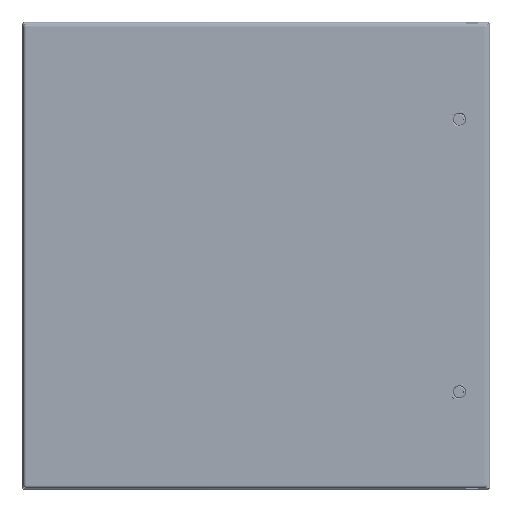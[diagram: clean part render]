
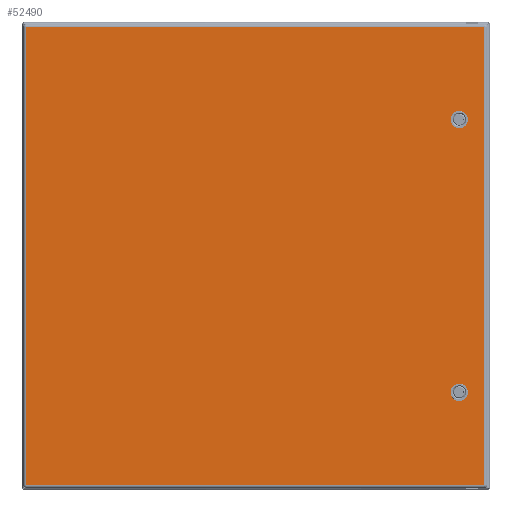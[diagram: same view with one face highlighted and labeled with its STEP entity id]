
A CAD part, top view. The second image highlights one B-rep face of the part: STEP entity #52490.
In plain terms, the highlighted planar face has unit normal (0, 0, 1).
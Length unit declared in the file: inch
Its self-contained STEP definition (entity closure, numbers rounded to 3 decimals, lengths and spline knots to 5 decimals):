
#4057 = CIRCLE ( 'NONE', #45326, 0.445 ) ;
#5554 = DIRECTION ( 'NONE',  ( 0., 0., -1. ) ) ;
#5990 = DIRECTION ( 'NONE',  ( 0., 1., 0. ) ) ;
#6037 = ORIENTED_EDGE ( 'NONE', *, *, #121815, .T. ) ;
#6473 = LINE ( 'NONE', #113439, #142789 ) ;
#9092 = CARTESIAN_POINT ( 'NONE',  ( 0.152, 0.15748, 0.072 ) ) ;
#10595 = EDGE_CURVE ( 'NONE', #169187, #169889, #113854, .T. ) ;
#11982 = ORIENTED_EDGE ( 'NONE', *, *, #10595, .T. ) ;
#15535 = VECTOR ( 'NONE', #32516, 39.37008 ) ;
#17962 = VERTEX_POINT ( 'NONE', #63818 ) ;
#19001 = AXIS2_PLACEMENT_3D ( 'NONE', #150294, #96864, #151441 ) ;
#19890 = CARTESIAN_POINT ( 'NONE',  ( 0.152, 0.152, 0.072 ) ) ;
#19936 = EDGE_CURVE ( 'NONE', #94056, #57511, #154601, .T. ) ;
#20261 = FACE_BOUND ( 'NONE', #123879, .T. ) ;
#21168 = CARTESIAN_POINT ( 'NONE',  ( 0.152, 23.66652, 0.072 ) ) ;
#21436 = CARTESIAN_POINT ( 'NONE',  ( 23.67952, 0.152, 0.072 ) ) ;
#22865 = EDGE_CURVE ( 'NONE', #42538, #150841, #171145, .T. ) ;
#23247 = AXIS2_PLACEMENT_3D ( 'NONE', #123333, #5554, #32648 ) ;
#23718 = AXIS2_PLACEMENT_3D ( 'NONE', #69371, #96552, #94857 ) ;
#24360 = ORIENTED_EDGE ( 'NONE', *, *, #61764, .T. ) ;
#24478 = DIRECTION ( 'NONE',  ( 1., 0., 0. ) ) ;
#24642 = CARTESIAN_POINT ( 'NONE',  ( 0.152, 11.912, 0.072 ) ) ;
#31383 = AXIS2_PLACEMENT_3D ( 'NONE', #130083, #128953, #24478 ) ;
#32516 = DIRECTION ( 'NONE',  ( 1., 0., 0. ) ) ;
#32623 = AXIS2_PLACEMENT_3D ( 'NONE', #61740, #165969, #75634 ) ;
#32648 = DIRECTION ( 'NONE',  ( 0., 1., 0. ) ) ;
#35083 = EDGE_CURVE ( 'NONE', #95499, #17962, #51749, .T. ) ;
#35182 = CARTESIAN_POINT ( 'NONE',  ( 23.685, 0.15748, 0.072 ) ) ;
#36725 = CARTESIAN_POINT ( 'NONE',  ( 23.67952, 0.15748, 0.072 ) ) ;
#37298 = DIRECTION ( 'NONE',  ( 0., -1., 0. ) ) ;
#38760 = CARTESIAN_POINT ( 'NONE',  ( 23.67952, 23.672, 0.072 ) ) ;
#39388 = DIRECTION ( 'NONE',  ( 0., 0., -1. ) ) ;
#40527 = CARTESIAN_POINT ( 'NONE',  ( 0., 11.912, 0.072 ) ) ;
#40943 = EDGE_CURVE ( 'NONE', #94056, #74632, #100341, .T. ) ;
#42538 = VERTEX_POINT ( 'NONE', #130984 ) ;
#45326 = AXIS2_PLACEMENT_3D ( 'NONE', #49037, #102780, #47903 ) ;
#47903 = DIRECTION ( 'NONE',  ( 1., 0., 0. ) ) ;
#48938 = AXIS2_PLACEMENT_3D ( 'NONE', #156119, #91726, #118198 ) ;
#49037 = CARTESIAN_POINT ( 'NONE',  ( 22.387, 18.912, 0.072 ) ) ;
#51749 = CIRCLE ( 'NONE', #48938, 0.445 ) ;
#52332 = CIRCLE ( 'NONE', #23247, 0.00548 ) ;
#52490 = ADVANCED_FACE ( 'NONE', ( #20261, #170902, #136025 ), #94359, .F. ) ;
#56086 = EDGE_LOOP ( 'NONE', ( #150908, #147827, #90328, #136290, #159743, #156946, #6037, #60394 ) ) ;
#57511 = VERTEX_POINT ( 'NONE', #9092 ) ;
#60394 = ORIENTED_EDGE ( 'NONE', *, *, #19936, .F. ) ;
#61740 = CARTESIAN_POINT ( 'NONE',  ( 0.15748, 0.15748, 0.072 ) ) ;
#61764 = EDGE_CURVE ( 'NONE', #169889, #169187, #4057, .T. ) ;
#63818 = CARTESIAN_POINT ( 'NONE',  ( 22.832, 4.912, 0.072 ) ) ;
#63946 = DIRECTION ( 'NONE',  ( 0., -1., 0. ) ) ;
#65707 = CIRCLE ( 'NONE', #31383, 0.445 ) ;
#69371 = CARTESIAN_POINT ( 'NONE',  ( 0.15748, 23.66652, 0.072 ) ) ;
#71983 = VERTEX_POINT ( 'NONE', #35182 ) ;
#72240 = VECTOR ( 'NONE', #162207, 39.37008 ) ;
#74632 = VERTEX_POINT ( 'NONE', #21436 ) ;
#75301 = EDGE_CURVE ( 'NONE', #17962, #95499, #65707, .T. ) ;
#75634 = DIRECTION ( 'NONE',  ( 0., 1., 0. ) ) ;
#80458 = DIRECTION ( 'NONE',  ( -1., 0., 0. ) ) ;
#86459 = CARTESIAN_POINT ( 'NONE',  ( 22.832, 18.912, 0.072 ) ) ;
#88889 = CIRCLE ( 'NONE', #23718, 0.00548 ) ;
#90328 = ORIENTED_EDGE ( 'NONE', *, *, #166788, .T. ) ;
#91726 = DIRECTION ( 'NONE',  ( 0., 0., 1. ) ) ;
#94056 = VERTEX_POINT ( 'NONE', #107840 ) ;
#94359 = PLANE ( 'NONE',  #123681 ) ;
#94857 = DIRECTION ( 'NONE',  ( 0., -1., 0. ) ) ;
#95499 = VERTEX_POINT ( 'NONE', #164369 ) ;
#96552 = DIRECTION ( 'NONE',  ( 0., 0., 1. ) ) ;
#96864 = DIRECTION ( 'NONE',  ( 0., 0., -1. ) ) ;
#96996 = ORIENTED_EDGE ( 'NONE', *, *, #75301, .F. ) ;
#97343 = CARTESIAN_POINT ( 'NONE',  ( 0.152, 23.672, 0.072 ) ) ;
#100341 = LINE ( 'NONE', #19890, #15535 ) ;
#102780 = DIRECTION ( 'NONE',  ( 0., 0., -1. ) ) ;
#104754 = VERTEX_POINT ( 'NONE', #21168 ) ;
#107840 = CARTESIAN_POINT ( 'NONE',  ( 0.15748, 0.152, 0.072 ) ) ;
#113439 = CARTESIAN_POINT ( 'NONE',  ( 23.685, 0.152, 0.072 ) ) ;
#113854 = CIRCLE ( 'NONE', #19001, 0.445 ) ;
#114035 = ORIENTED_EDGE ( 'NONE', *, *, #35083, .F. ) ;
#114625 = EDGE_CURVE ( 'NONE', #150841, #160684, #52332, .T. ) ;
#115352 = DIRECTION ( 'NONE',  ( 0., 0., 1. ) ) ;
#118198 = DIRECTION ( 'NONE',  ( 1., 0., 0. ) ) ;
#119004 = EDGE_CURVE ( 'NONE', #42538, #104754, #88889, .T. ) ;
#119704 = EDGE_LOOP ( 'NONE', ( #11982, #24360 ) ) ;
#121815 = EDGE_CURVE ( 'NONE', #104754, #57511, #170101, .T. ) ;
#122743 = VECTOR ( 'NONE', #63946, 39.37008 ) ;
#123333 = CARTESIAN_POINT ( 'NONE',  ( 23.67952, 23.66652, 0.072 ) ) ;
#123681 = AXIS2_PLACEMENT_3D ( 'NONE', #40527, #39388, #80458 ) ;
#123879 = EDGE_LOOP ( 'NONE', ( #96996, #114035 ) ) ;
#128953 = DIRECTION ( 'NONE',  ( 0., 0., 1. ) ) ;
#130083 = CARTESIAN_POINT ( 'NONE',  ( 22.387, 4.912, 0.072 ) ) ;
#130984 = CARTESIAN_POINT ( 'NONE',  ( 0.15748, 23.672, 0.072 ) ) ;
#132937 = EDGE_CURVE ( 'NONE', #74632, #71983, #165923, .T. ) ;
#136025 = FACE_BOUND ( 'NONE', #119704, .T. ) ;
#136290 = ORIENTED_EDGE ( 'NONE', *, *, #114625, .F. ) ;
#142379 = CARTESIAN_POINT ( 'NONE',  ( 23.685, 23.66652, 0.072 ) ) ;
#142789 = VECTOR ( 'NONE', #5990, 39.37008 ) ;
#144896 = CARTESIAN_POINT ( 'NONE',  ( 21.942, 18.912, 0.072 ) ) ;
#147827 = ORIENTED_EDGE ( 'NONE', *, *, #132937, .T. ) ;
#150294 = CARTESIAN_POINT ( 'NONE',  ( 22.387, 18.912, 0.072 ) ) ;
#150841 = VERTEX_POINT ( 'NONE', #38760 ) ;
#150908 = ORIENTED_EDGE ( 'NONE', *, *, #40943, .T. ) ;
#151441 = DIRECTION ( 'NONE',  ( 1., 0., 0. ) ) ;
#152234 = AXIS2_PLACEMENT_3D ( 'NONE', #36725, #115352, #37298 ) ;
#154601 = CIRCLE ( 'NONE', #32623, 0.00548 ) ;
#156119 = CARTESIAN_POINT ( 'NONE',  ( 22.387, 4.912, 0.072 ) ) ;
#156946 = ORIENTED_EDGE ( 'NONE', *, *, #119004, .T. ) ;
#159743 = ORIENTED_EDGE ( 'NONE', *, *, #22865, .F. ) ;
#160684 = VERTEX_POINT ( 'NONE', #142379 ) ;
#162207 = DIRECTION ( 'NONE',  ( 1., 0., 0. ) ) ;
#164369 = CARTESIAN_POINT ( 'NONE',  ( 21.942, 4.912, 0.072 ) ) ;
#165923 = CIRCLE ( 'NONE', #152234, 0.00548 ) ;
#165969 = DIRECTION ( 'NONE',  ( 0., 0., -1. ) ) ;
#166788 = EDGE_CURVE ( 'NONE', #71983, #160684, #6473, .T. ) ;
#169187 = VERTEX_POINT ( 'NONE', #86459 ) ;
#169889 = VERTEX_POINT ( 'NONE', #144896 ) ;
#170101 = LINE ( 'NONE', #24642, #122743 ) ;
#170902 = FACE_OUTER_BOUND ( 'NONE', #56086, .T. ) ;
#171145 = LINE ( 'NONE', #97343, #72240 ) ;
